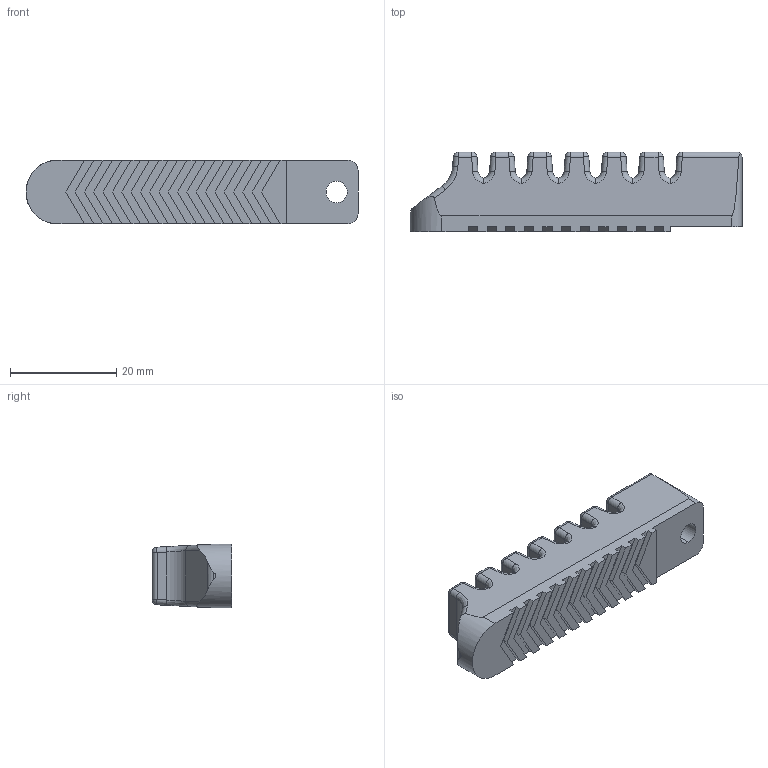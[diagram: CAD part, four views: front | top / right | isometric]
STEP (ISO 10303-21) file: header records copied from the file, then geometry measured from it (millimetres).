
FILE_DESCRIPTION (( 'STEP AP214' ), '1' );
FILE_NAME ('C7.STEP', '2019-12-04T08:16:49', ( '微软用户' ), ( '微软中国' ), 'SwSTEP 2.0', 'SolidWorks 2016', '' );
FILE_SCHEMA (( 'AUTOMOTIVE_DESIGN' ));
Length unit declared in the file: millimetre
Products named in the file (1): C7
Bounding box: 62.35 x 15 x 12 mm (x, y, z)
Volume: 8612.9 mm3; surface area: 4055.1 mm2
Topology: 1 solids, 1 shells, 223 faces, 545 edges, 324 vertices
Faces by surface type: plane 96, cylinder 75, sphere 26, bspline 26
Entity records: 10625 total; most frequent: CARTESIAN_POINT 3162, ORIENTED_EDGE 1090, DIRECTION 973, EDGE_CURVE 545, LINE 351, VECTOR 351, VERTEX_POINT 324, AXIS2_PLACEMENT_3D 311
